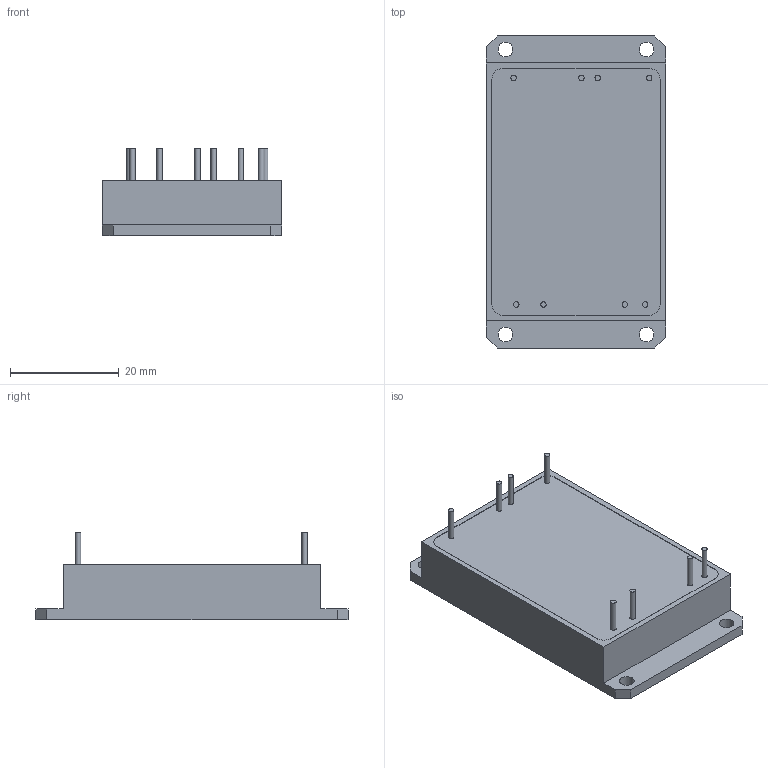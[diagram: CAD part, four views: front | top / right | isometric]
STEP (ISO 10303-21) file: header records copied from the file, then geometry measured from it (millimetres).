
FILE_DESCRIPTION(('STEP AP214'), '1');
FILE_NAME('3U ﾌﾄﾌ20-1(2)ﾓﾏ', '', ('UNSPECIFIED'), ('UNSPECIFIED'), 'C3D Converter', 'C3D Toolkit', '');
FILE_SCHEMA(('AUTOMOTIVE_DESIGN { 1 0 10303 214 3 1 1}'));
Length unit declared in the file: millimetre
Products named in the file (1): -01
Bounding box: 33 x 57.5 x 16.15 mm (x, y, z)
Volume: 16405.9 mm3; surface area: 5634.1 mm2
Topology: 1 solids, 1 shells, 43 faces, 96 edges, 64 vertices
Faces by surface type: plane 27, cylinder 16
Full cylindrical faces by diameter (mm): 1 x8, 2.7 x4
Entity records: 1193 total; most frequent: DIRECTION 204, CARTESIAN_POINT 192, ORIENTED_EDGE 168, EDGE_CURVE 84, AXIS2_PLACEMENT_3D 76, EDGE_LOOP 72, VERTEX_POINT 64, LINE 52
